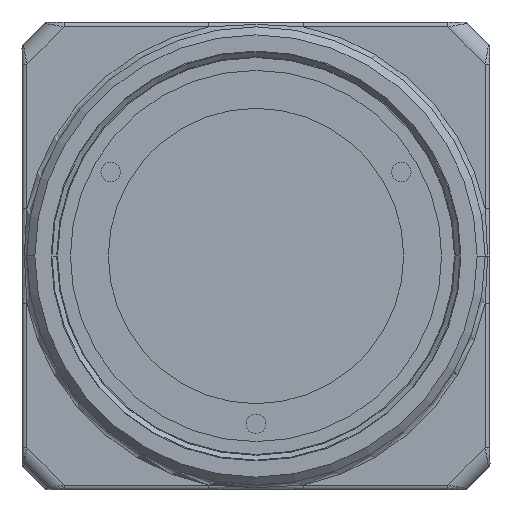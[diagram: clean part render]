
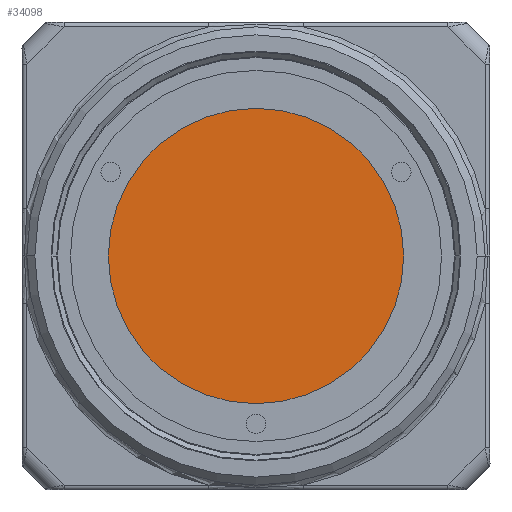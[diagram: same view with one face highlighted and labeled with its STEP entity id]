
A CAD part, left-side view. The second image highlights one B-rep face of the part: STEP entity #34098.
In plain terms, the highlighted planar face has unit normal (-1, 0, 0).
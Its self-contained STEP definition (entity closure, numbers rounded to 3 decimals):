
#2940=CARTESIAN_POINT('',(0.1,0.,0.));
#2941=DIRECTION('',(1.,0.,0.));
#2942=DIRECTION('',(0.,1.,0.));
#2943=AXIS2_PLACEMENT_3D('',#2940,#2941,#2942);
#2945=CARTESIAN_POINT('',(0.1,0.,0.));
#2946=DIRECTION('',(1.,0.,0.));
#2947=DIRECTION('',(0.,-1.,0.));
#2948=AXIS2_PLACEMENT_3D('',#2945,#2946,#2947);
#29101=CARTESIAN_POINT('',(0.1,9.15,0.));
#29102=CARTESIAN_POINT('',(0.1,-9.15,0.));
#29103=VERTEX_POINT('',#29101);
#29104=VERTEX_POINT('',#29102);
#34088=CARTESIAN_POINT('',(0.1,0.,0.));
#34089=DIRECTION('',(1.,0.,0.));
#34090=DIRECTION('',(0.,-1.,0.));
#34091=AXIS2_PLACEMENT_3D('',#34088,#34089,#34090);
#34092=PLANE('',#34091);
#34093=ORIENTED_EDGE('',*,*,#34078,.T.);
#34095=ORIENTED_EDGE('',*,*,#34094,.T.);
#34096=EDGE_LOOP('',(#34093,#34095));
#34097=FACE_OUTER_BOUND('',#34096,.F.);
#34098=ADVANCED_FACE('',(#34097),#34092,.F.);
#2944=CIRCLE('',#2943,9.15);
#2949=CIRCLE('',#2948,9.15);
#34078=EDGE_CURVE('',#29103,#29104,#2944,.T.);
#34094=EDGE_CURVE('',#29104,#29103,#2949,.T.);
